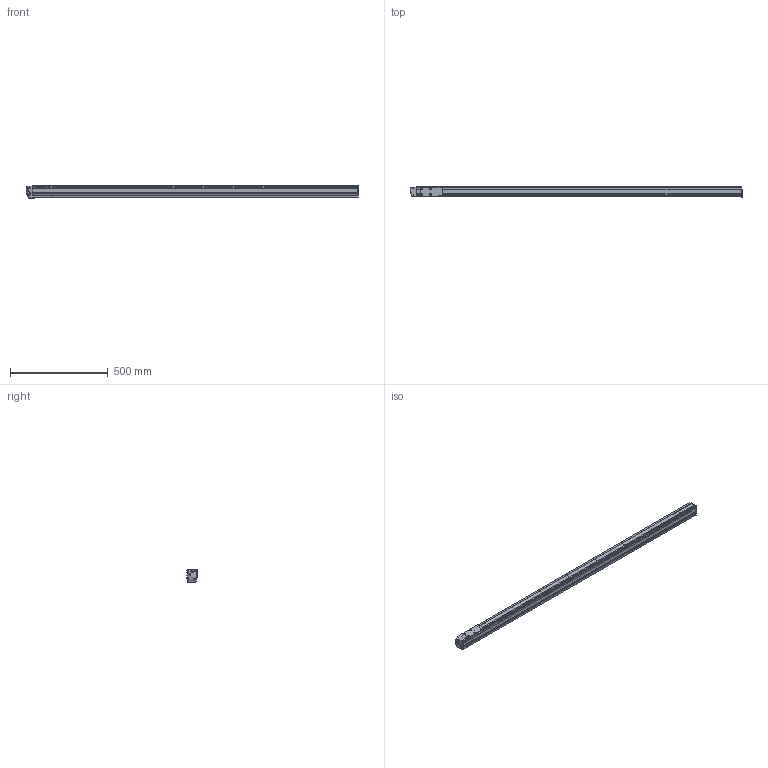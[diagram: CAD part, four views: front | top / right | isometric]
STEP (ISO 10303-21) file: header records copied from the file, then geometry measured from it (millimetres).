
FILE_DESCRIPTION(('Creo Elements/Direct Modeling STEP Export'),'2;1');
FILE_NAME('MOD-14E-T-M-Li.stp','2021-12-17T15:11:59',(''),(''),'Creo Elements/Direct Modeling STEP processor for AP214 (Solid Model)','Creo Elements/Direct Modeling 19.0G 27-Nov-2017 (C) Parametric Technology GmbH','');
FILE_SCHEMA(('AUTOMOTIVE_DESIGN { 1 0 10303 214 1 1 1 1 }'));
Length unit declared in the file: millimetre
Products named in the file (2): MOD-14E-M-Li
Assembly tree (1 placements, depth 2):
  MOD-14E-M-Li
    MOD-14E-M-Li
Bounding box: 1701.31 x 51.5 x 65.37 mm (x, y, z)
Volume: 4322485.5 mm3; surface area: 490625.8 mm2
Topology: 1 solids, 1 shells, 730 faces, 2107 edges, 1391 vertices
Faces by surface type: plane 347, cylinder 296, bspline 51, cone 16, torus 14, sphere 6
Entity records: 31668 total; most frequent: CARTESIAN_POINT 10722, ORIENTED_EDGE 4216, DIRECTION 3487, EDGE_CURVE 2106, VERTEX_POINT 1391, AXIS2_PLACEMENT_3D 1188, VECTOR 1111, LINE 1111
